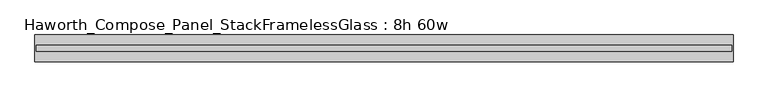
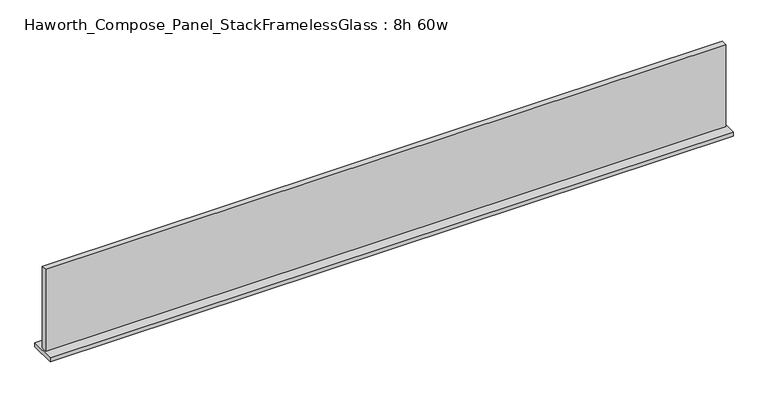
"""IFC4 building model written with IfcOpenShell, lengths in millimetres: furniture geometry, Haworth_Compose_Panel_StackFramelessGlass : 8h 60w."""

from ifc_helpers import new_model, si_unit, frame, origin, place, context, project, spatial, polyline, outline, extrude, source, transform, mapped, element, save


def haworth_compose_panel_stackframelessglass_8h_60w_76307441(model_context):
    return source(origin(), model_context, "Body", "SweptSolid", [
        extrude(outline(polyline([(761.2652902, -27.3093594), (-756.3847098, -27.3093594), (-756.3847098, -14.6093594), (761.2652902, -14.6093594), (761.2652902, -27.3093594)])), frame((0.0, 0.0, 1076.325), z_axis=(0.0, 0.0, 1.0), x_axis=(1.0, 0.0, 0.0)), (0.0, 0.0, 1.0), 193.675),
        extrude(outline(polyline([(-759.5597098, -50.3281094), (-759.5597098, 8.4093906), (764.4402902, 8.4093906), (764.4402902, -50.3281094), (-759.5597098, -50.3281094)])), frame((0.0, 0.0, 1066.8), z_axis=(0.0, 0.0, 1.0), x_axis=(1.0, 0.0, 0.0)), (0.0, 0.0, 1.0), 9.525),
    ])


if __name__ == "__main__":
    model = new_model("IFC4")
    model_context = context("Model", 3, world=origin())
    ifc_project = project(units=[si_unit("LENGTHUNIT", "METRE", prefix="MILLI")], contexts=[model_context])
    site = spatial("IfcSite", under=ifc_project)
    building = spatial("IfcBuilding", under=site)
    placement = place(None, origin())
    haworth_compose_panel_stackframelessglass_8h_60w_shape = haworth_compose_panel_stackframelessglass_8h_60w_76307441(model_context)
    element("IfcFurniture", 1, ObjectType="Haworth_Compose_Panel_StackFramelessGlass : 8h 60w", at=placement, inside=building, context=model_context, shape_type="MappedRepresentation", body=[
        mapped(haworth_compose_panel_stackframelessglass_8h_60w_shape, transform((0.0, 0.0, 0.0), x_axis=(1.0, 0.0, 0.0), y_axis=(0.0, 1.0, 0.0), z_axis=(0.0, 0.0, 1.0))),
    ])
    save(model, "model.ifc")
